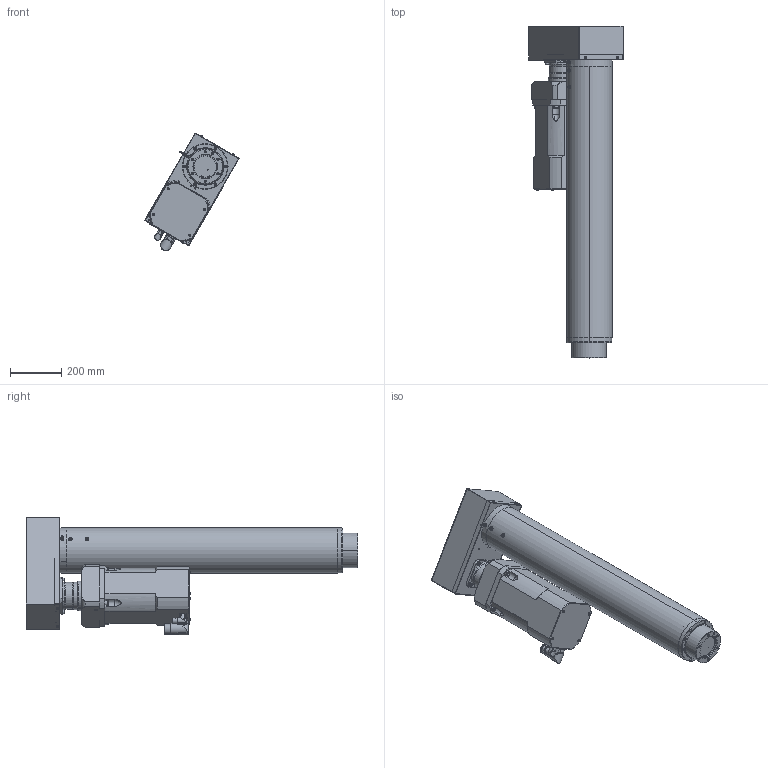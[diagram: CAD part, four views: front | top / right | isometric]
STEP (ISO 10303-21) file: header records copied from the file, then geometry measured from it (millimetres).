
FILE_DESCRIPTION (( 'STEP AP214' ), '1' );
FILE_NAME ('RLWPK060D-075-025HG0.STEP', '2023-04-06T05:43:09', ( '' ), ( '' ), 'SwSTEP 2.0', 'SolidWorks 2021', '' );
FILE_SCHEMA (( 'AUTOMOTIVE_DESIGN' ));
Length unit declared in the file: millimetre
Products named in the file (1): RLWPK060D-075-025HG0
Bounding box: 368.79 x 1297.5 x 460.18 mm (x, y, z)
Volume: 35902683.4 mm3; surface area: 3226095.2 mm2
Topology: 31 solids, 31 shells, 1232 faces, 2910 edges, 1742 vertices
Faces by surface type: cylinder 478, plane 428, cone 218, torus 76, bspline 30, sphere 2
Entity records: 50361 total; most frequent: CARTESIAN_POINT 8024, DIRECTION 6324, ORIENTED_EDGE 5548, EDGE_CURVE 2774, AXIS2_PLACEMENT_3D 2487, VERTEX_POINT 1742, EDGE_LOOP 1468, LINE 1350
